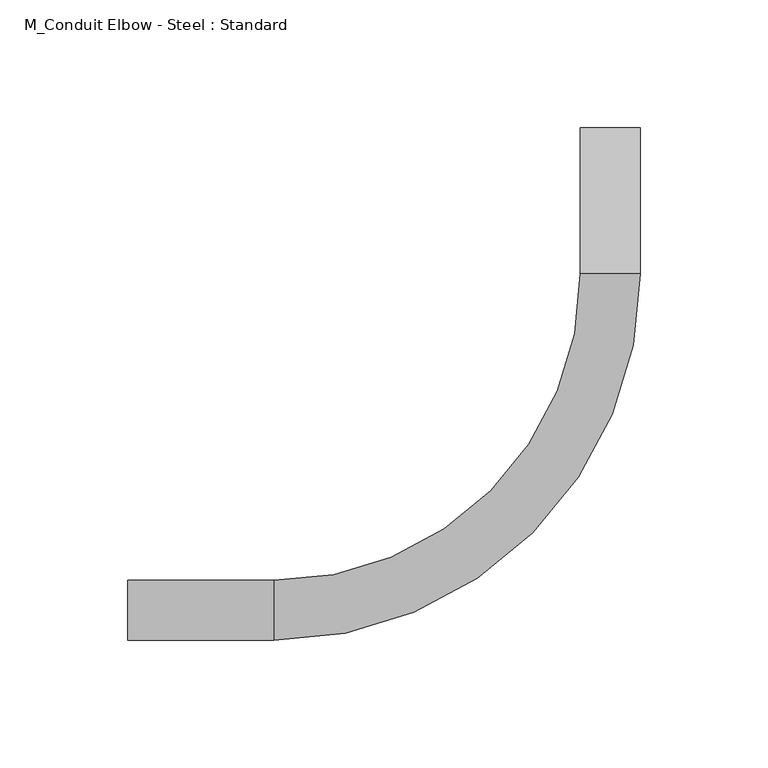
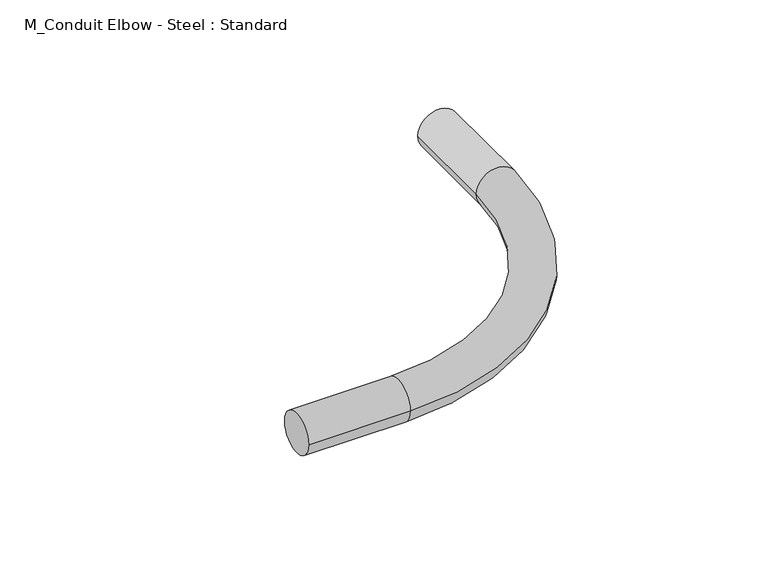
"""IFC4 building model written with IfcOpenShell, lengths in millimetres: cable carrier fitting geometry, M_Conduit Elbow - Steel : Standard."""

from ifc_helpers import new_model, si_unit, point, frame, origin, place, context, project, spatial, circle_curve, ellipse_curve, trimmed, source, transform, mapped, element, save
from ifc_brep_helpers import plane_surface, cylinder_surface, revolved_surface, advanced_brep


def m_conduit_elbow_steel_standard_eedba290(model_context):
    return source(origin(), model_context, "Body", "AdvancedBrep", [
        advanced_brep(
        [(-188.9124862, -11.7094, 0.0), (-188.9124862, 11.7094, 0.0), (-131.7624862, -11.7094, 0.0), (-131.7624862, 11.7094, 0.0), (-11.7093862, 131.7624874, 0.0), (11.7094138, 131.762485, 0.0), (11.7094198, 188.912485, 0.0), (-11.7093802, 188.9124874, 0.0)],
        [
            (0, 1, circle_curve(frame((-188.9124862, 0.0, 0.0), z_axis=(-1.0, 0.0, 0.0), x_axis=(0.0, 1.0, 0.0)), 11.7094)),
            (1, 0, circle_curve(frame((-188.9124862, 0.0, 0.0), z_axis=(-1.0, 0.0, 0.0), x_axis=(0.0, 1.0, 0.0)), 11.7094)),
            (0, 2),
            (2, 3, circle_curve(frame((-131.7624862, 0.0, 0.0), z_axis=(-1.0, 0.0, 0.0), x_axis=(0.0, 1.0, 0.0)), 11.7094)),
            (3, 1),
            (3, 2, circle_curve(frame((-131.7624862, 0.0, 0.0), z_axis=(-1.0, 0.0, 0.0), x_axis=(0.0, 1.0, 0.0)), 11.7094)),
            (4, 3, circle_curve(frame((-131.7624862, 131.7625, 0.0), z_axis=(0.0, 0.0, -1.0), x_axis=(0.0, -1.0, 0.0)), 120.0531)),
            (2, 5, circle_curve(frame((-131.7624862, 131.7625, 0.0), z_axis=(0.0, 0.0, 1.0), x_axis=(0.0, -1.0, 0.0)), 143.4719)),
            (5, 4, circle_curve(frame((1.38e-05, 131.7624862, 0.0), z_axis=(-1.0475818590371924e-07, -0.9999999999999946, 0.0), x_axis=(-0.9999999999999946, 1.0475818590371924e-07, 0.0)), 11.7094)),
            (4, 5, circle_curve(frame((1.38e-05, 131.7624862, 0.0), z_axis=(-1.0475818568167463e-07, -0.9999999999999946, 0.0), x_axis=(-0.9999999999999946, 1.0475818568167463e-07, 0.0)), 11.7094)),
            (6, 7, circle_curve(frame((1.98e-05, 188.9124862, 0.0), z_axis=(1.0475818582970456e-07, 0.9999999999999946, 0.0), x_axis=(-0.9999999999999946, 1.0475818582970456e-07, 0.0)), 11.7094)),
            (7, 6, circle_curve(frame((1.98e-05, 188.9124862, 0.0), z_axis=(1.0475818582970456e-07, 0.9999999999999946, 0.0), x_axis=(-0.9999999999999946, 1.0475818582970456e-07, 0.0)), 11.7094)),
            (5, 6),
            (7, 4),
        ],
        [
            plane_surface(frame((-188.9124862, 0.0, 0.0), z_axis=(-1.0, 0.0, 0.0), x_axis=(0.0, 0.0, 1.0))),
            cylinder_surface(frame((-188.9124862, 0.0, 0.0), z_axis=(-1.0, 0.0, 0.0), x_axis=(0.0, 1.0, 0.0)), 11.7094),
            revolved_surface(trimmed(ellipse_curve(frame((-131.7624862, 0.0, 0.0), z_axis=(-1.0, 0.0, 0.0), x_axis=(0.0, 1.0, 0.0)), 11.7094, 11.7094), [point((-131.7624862, -11.7094, 0.0))], [point((-131.7624862, 11.7094, 0.0))], True, "CARTESIAN"), (-131.7624862, 131.7625, 0.0), (0.0, 0.0, 1.0)),
            revolved_surface(trimmed(ellipse_curve(frame((-131.7624862, 0.0, 0.0), z_axis=(-1.0, 0.0, 0.0), x_axis=(0.0, 1.0, 0.0)), 11.7094, 11.7094), [point((-131.7624862, 11.7094, 0.0))], [point((-131.7624862, -11.7094, 0.0))], True, "CARTESIAN"), (-131.7624862, 131.7625, 0.0), (0.0, 0.0, 1.0)),
            plane_surface(frame((1.98e-05, 188.9124862, 0.0), z_axis=(1.0475818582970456e-07, 0.9999999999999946, 0.0), x_axis=(0.0, 0.0, 1.0))),
            cylinder_surface(frame((1.38e-05, 131.7624862, 0.0), z_axis=(-1.0475818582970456e-07, -0.9999999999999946, 0.0), x_axis=(-0.9999999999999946, 1.0475818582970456e-07, 0.0)), 11.7094),
        ],
        [
            (0, [[1, 2]]),
            (1, [[-1, 3, 4, 5]]),
            (1, [[-2, -5, 6, -3]]),
            (2, [[7, -4, 8, 9]]),
            (3, [[-8, -6, -7, 10]]),
            (4, [[11, 12]]),
            (5, [[-9, 13, -12, 14]]),
            (5, [[-10, -14, -11, -13]]),
        ],
    ),
    ])


if __name__ == "__main__":
    model = new_model("IFC4")
    model_context = context("Model", 3, world=origin())
    ifc_project = project(units=[si_unit("LENGTHUNIT", "METRE", prefix="MILLI")], contexts=[model_context])
    site = spatial("IfcSite", under=ifc_project)
    building = spatial("IfcBuilding", under=site)
    placement = place(None, origin())
    m_conduit_elbow_steel_standard_shape = m_conduit_elbow_steel_standard_eedba290(model_context)
    element("IfcCableCarrierFitting", 1, ObjectType="M_Conduit Elbow - Steel : Standard", at=placement, inside=building, context=model_context, shape_type="MappedRepresentation", body=[
        mapped(m_conduit_elbow_steel_standard_shape, transform((0.0, 0.0, 0.0), x_axis=(1.0, 0.0, 0.0), y_axis=(0.0, 1.0, 0.0), z_axis=(0.0, 0.0, 1.0))),
    ])
    save(model, "model.ifc")
